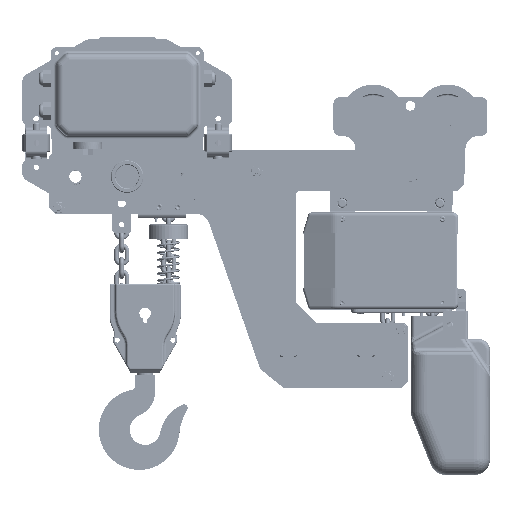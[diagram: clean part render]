
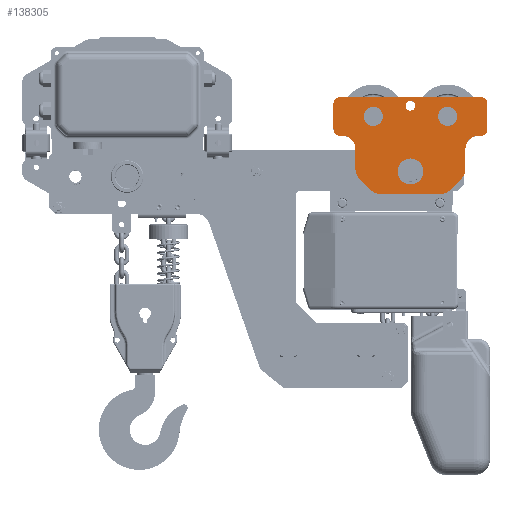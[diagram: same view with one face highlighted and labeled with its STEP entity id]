
A CAD part, top view. The second image highlights one B-rep face of the part: STEP entity #138305.
In plain terms, the highlighted planar face has unit normal (0, 0, 1).
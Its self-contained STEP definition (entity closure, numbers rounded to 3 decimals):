
#11810=CIRCLE('',#165375,14.75);
#11812=CIRCLE('',#165379,14.75);
#11813=CIRCLE('',#165380,10.);
#11814=CIRCLE('',#165381,10.);
#11815=CIRCLE('',#165382,20.);
#11816=CIRCLE('',#165383,20.);
#11817=CIRCLE('',#165384,20.);
#11818=CIRCLE('',#165385,20.);
#11819=CIRCLE('',#165386,20.);
#11820=CIRCLE('',#165387,20.);
#11821=CIRCLE('',#165388,10.);
#11822=CIRCLE('',#165389,10.);
#11823=CIRCLE('',#165390,7.5);
#11824=CIRCLE('',#165391,20.);
#34713=ORIENTED_EDGE('',*,*,#67510,.T.);
#34714=ORIENTED_EDGE('',*,*,#67508,.T.);
#34715=ORIENTED_EDGE('',*,*,#67511,.F.);
#34716=ORIENTED_EDGE('',*,*,#67512,.F.);
#34717=ORIENTED_EDGE('',*,*,#67513,.F.);
#34718=ORIENTED_EDGE('',*,*,#67514,.F.);
#34719=ORIENTED_EDGE('',*,*,#67515,.F.);
#34720=ORIENTED_EDGE('',*,*,#67516,.F.);
#34721=ORIENTED_EDGE('',*,*,#67517,.F.);
#34722=ORIENTED_EDGE('',*,*,#67518,.F.);
#34723=ORIENTED_EDGE('',*,*,#67519,.F.);
#34724=ORIENTED_EDGE('',*,*,#67520,.F.);
#34725=ORIENTED_EDGE('',*,*,#67521,.F.);
#34726=ORIENTED_EDGE('',*,*,#67522,.F.);
#34727=ORIENTED_EDGE('',*,*,#67523,.F.);
#34728=ORIENTED_EDGE('',*,*,#67524,.F.);
#34729=ORIENTED_EDGE('',*,*,#67525,.F.);
#34730=ORIENTED_EDGE('',*,*,#67526,.F.);
#34731=ORIENTED_EDGE('',*,*,#67527,.F.);
#34732=ORIENTED_EDGE('',*,*,#67528,.F.);
#34733=ORIENTED_EDGE('',*,*,#67529,.F.);
#34734=ORIENTED_EDGE('',*,*,#67530,.F.);
#34735=ORIENTED_EDGE('',*,*,#67531,.F.);
#34736=ORIENTED_EDGE('',*,*,#67532,.F.);
#67508=EDGE_CURVE('',#85117,#85117,#11810,.F.);
#67510=EDGE_CURVE('',#85119,#85119,#11812,.F.);
#67511=EDGE_CURVE('',#85120,#85121,#11813,.F.);
#67512=EDGE_CURVE('',#85122,#85120,#96944,.F.);
#67513=EDGE_CURVE('',#85123,#85122,#11814,.F.);
#67514=EDGE_CURVE('',#85124,#85123,#96945,.F.);
#67515=EDGE_CURVE('',#85125,#85124,#11815,.F.);
#67516=EDGE_CURVE('',#85126,#85125,#96946,.F.);
#67517=EDGE_CURVE('',#85127,#85126,#11816,.F.);
#67518=EDGE_CURVE('',#85128,#85127,#96947,.F.);
#67519=EDGE_CURVE('',#85129,#85128,#11817,.F.);
#67520=EDGE_CURVE('',#85130,#85129,#96948,.F.);
#67521=EDGE_CURVE('',#85131,#85130,#11818,.F.);
#67522=EDGE_CURVE('',#85132,#85131,#96949,.F.);
#67523=EDGE_CURVE('',#85133,#85132,#11819,.F.);
#67524=EDGE_CURVE('',#85134,#85133,#96950,.F.);
#67525=EDGE_CURVE('',#85135,#85134,#11820,.F.);
#67526=EDGE_CURVE('',#85136,#85135,#96951,.F.);
#67527=EDGE_CURVE('',#85137,#85136,#11821,.F.);
#67528=EDGE_CURVE('',#85138,#85137,#96952,.F.);
#67529=EDGE_CURVE('',#85139,#85138,#11822,.F.);
#67530=EDGE_CURVE('',#85121,#85139,#96953,.F.);
#67531=EDGE_CURVE('',#85140,#85140,#11823,.F.);
#67532=EDGE_CURVE('',#85141,#85141,#11824,.F.);
#85117=VERTEX_POINT('',#252230);
#85119=VERTEX_POINT('',#252236);
#85120=VERTEX_POINT('',#252238);
#85121=VERTEX_POINT('',#252239);
#85122=VERTEX_POINT('',#252241);
#85123=VERTEX_POINT('',#252243);
#85124=VERTEX_POINT('',#252245);
#85125=VERTEX_POINT('',#252247);
#85126=VERTEX_POINT('',#252249);
#85127=VERTEX_POINT('',#252251);
#85128=VERTEX_POINT('',#252253);
#85129=VERTEX_POINT('',#252255);
#85130=VERTEX_POINT('',#252257);
#85131=VERTEX_POINT('',#252259);
#85132=VERTEX_POINT('',#252261);
#85133=VERTEX_POINT('',#252263);
#85134=VERTEX_POINT('',#252265);
#85135=VERTEX_POINT('',#252267);
#85136=VERTEX_POINT('',#252269);
#85137=VERTEX_POINT('',#252271);
#85138=VERTEX_POINT('',#252273);
#85139=VERTEX_POINT('',#252275);
#85140=VERTEX_POINT('',#252278);
#85141=VERTEX_POINT('',#252280);
#96944=LINE('',#252240,#105902);
#96945=LINE('',#252244,#105903);
#96946=LINE('',#252248,#105904);
#96947=LINE('',#252252,#105905);
#96948=LINE('',#252256,#105906);
#96949=LINE('',#252260,#105907);
#96950=LINE('',#252264,#105908);
#96951=LINE('',#252268,#105909);
#96952=LINE('',#252272,#105910);
#96953=LINE('',#252276,#105911);
#105902=VECTOR('',#188132,1000.);
#105903=VECTOR('',#188135,1000.);
#105904=VECTOR('',#188138,1000.);
#105905=VECTOR('',#188141,1000.);
#105906=VECTOR('',#188144,1000.);
#105907=VECTOR('',#188147,1000.);
#105908=VECTOR('',#188150,1000.);
#105909=VECTOR('',#188153,1000.);
#105910=VECTOR('',#188156,1000.);
#105911=VECTOR('',#188159,1000.);
#114998=EDGE_LOOP('',(#34713));
#114999=EDGE_LOOP('',(#34714));
#115000=EDGE_LOOP('',(#34715,#34716,#34717,#34718,#34719,#34720,#34721,
#34722,#34723,#34724,#34725,#34726,#34727,#34728,#34729,#34730,#34731,#34732,
#34733,#34734));
#115001=EDGE_LOOP('',(#34735));
#115002=EDGE_LOOP('',(#34736));
#125460=FACE_BOUND('',#114998,.T.);
#125461=FACE_BOUND('',#114999,.T.);
#125462=FACE_BOUND('',#115000,.T.);
#125463=FACE_BOUND('',#115001,.T.);
#125464=FACE_BOUND('',#115002,.T.);
#132930=PLANE('',#165378);
#138305=ADVANCED_FACE('',(#125460,#125461,#125462,#125463,#125464),#132930,
 .F.);
#165375=AXIS2_PLACEMENT_3D('',#252229,#188120,#188121);
#165378=AXIS2_PLACEMENT_3D('',#252234,#188126,#188127);
#165379=AXIS2_PLACEMENT_3D('',#252235,#188128,#188129);
#165380=AXIS2_PLACEMENT_3D('',#252237,#188130,#188131);
#165381=AXIS2_PLACEMENT_3D('',#252242,#188133,#188134);
#165382=AXIS2_PLACEMENT_3D('',#252246,#188136,#188137);
#165383=AXIS2_PLACEMENT_3D('',#252250,#188139,#188140);
#165384=AXIS2_PLACEMENT_3D('',#252254,#188142,#188143);
#165385=AXIS2_PLACEMENT_3D('',#252258,#188145,#188146);
#165386=AXIS2_PLACEMENT_3D('',#252262,#188148,#188149);
#165387=AXIS2_PLACEMENT_3D('',#252266,#188151,#188152);
#165388=AXIS2_PLACEMENT_3D('',#252270,#188154,#188155);
#165389=AXIS2_PLACEMENT_3D('',#252274,#188157,#188158);
#165390=AXIS2_PLACEMENT_3D('',#252277,#188160,#188161);
#165391=AXIS2_PLACEMENT_3D('',#252279,#188162,#188163);
#188120=DIRECTION('',(0.,0.,1.));
#188121=DIRECTION('',(0.,-1.,0.));
#188126=DIRECTION('',(0.,0.,-1.));
#188127=DIRECTION('',(1.,0.,0.));
#188128=DIRECTION('',(0.,0.,1.));
#188129=DIRECTION('',(0.,-1.,0.));
#188130=DIRECTION('',(0.,0.,1.));
#188131=DIRECTION('',(1.,0.,0.));
#188132=DIRECTION('',(0.,-1.,0.));
#188133=DIRECTION('',(0.,0.,1.));
#188134=DIRECTION('',(1.,0.,0.));
#188135=DIRECTION('',(1.,0.,0.));
#188136=DIRECTION('',(0.,0.,-1.));
#188137=DIRECTION('',(1.,0.,0.));
#188138=DIRECTION('',(0.,-1.,0.));
#188139=DIRECTION('',(0.,0.,1.));
#188140=DIRECTION('',(1.,0.,0.));
#188141=DIRECTION('',(0.707,-0.707,0.));
#188142=DIRECTION('',(0.,0.,1.));
#188143=DIRECTION('',(1.,0.,0.));
#188144=DIRECTION('',(1.,0.,0.));
#188145=DIRECTION('',(0.,0.,1.));
#188146=DIRECTION('',(1.,0.,0.));
#188147=DIRECTION('',(0.707,0.707,0.));
#188148=DIRECTION('',(0.,0.,1.));
#188149=DIRECTION('',(1.,0.,0.));
#188150=DIRECTION('',(0.,1.,0.));
#188151=DIRECTION('',(0.,0.,-1.));
#188152=DIRECTION('',(1.,0.,0.));
#188153=DIRECTION('',(1.,0.,0.));
#188154=DIRECTION('',(0.,0.,1.));
#188155=DIRECTION('',(1.,0.,0.));
#188156=DIRECTION('',(0.,1.,0.));
#188157=DIRECTION('',(0.,0.,1.));
#188158=DIRECTION('',(1.,0.,0.));
#188159=DIRECTION('',(-1.,0.,0.));
#188160=DIRECTION('',(0.,0.,-1.));
#188161=DIRECTION('',(1.,0.,0.));
#188162=DIRECTION('',(0.,0.,-1.));
#188163=DIRECTION('',(1.,0.,0.));
#252229=CARTESIAN_POINT('',(-57.,-442.742,345.278));
#252230=CARTESIAN_POINT('',(-57.,-457.492,345.278));
#252234=CARTESIAN_POINT('',(-108.5,-422.742,345.278));
#252235=CARTESIAN_POINT('',(58.,-442.742,345.278));
#252236=CARTESIAN_POINT('',(58.,-457.492,345.278));
#252237=CARTESIAN_POINT('',(-108.5,-422.742,345.278));
#252238=CARTESIAN_POINT('',(-118.5,-422.742,345.278));
#252239=CARTESIAN_POINT('',(-108.5,-412.742,345.278));
#252240=CARTESIAN_POINT('',(-118.5,-422.742,345.278));
#252241=CARTESIAN_POINT('',(-118.5,-462.742,345.278));
#252242=CARTESIAN_POINT('',(-108.5,-462.742,345.278));
#252243=CARTESIAN_POINT('',(-108.5,-472.742,345.278));
#252244=CARTESIAN_POINT('',(-108.5,-472.742,345.278));
#252245=CARTESIAN_POINT('',(-104.5,-472.742,345.278));
#252246=CARTESIAN_POINT('',(-104.5,-492.742,345.278));
#252247=CARTESIAN_POINT('',(-84.5,-492.742,345.278));
#252248=CARTESIAN_POINT('',(-84.5,-492.742,345.278));
#252249=CARTESIAN_POINT('',(-84.5,-524.458,345.278));
#252250=CARTESIAN_POINT('',(-64.5,-524.458,345.278));
#252251=CARTESIAN_POINT('',(-78.642,-538.6,345.278));
#252252=CARTESIAN_POINT('',(-78.642,-538.6,345.278));
#252253=CARTESIAN_POINT('',(-60.358,-556.884,345.278));
#252254=CARTESIAN_POINT('',(-46.216,-542.742,345.278));
#252255=CARTESIAN_POINT('',(-46.216,-562.742,345.278));
#252256=CARTESIAN_POINT('',(-46.216,-562.742,345.278));
#252257=CARTESIAN_POINT('',(47.216,-562.742,345.278));
#252258=CARTESIAN_POINT('',(47.216,-542.742,345.278));
#252259=CARTESIAN_POINT('',(61.358,-556.884,345.278));
#252260=CARTESIAN_POINT('',(61.358,-556.884,345.278));
#252261=CARTESIAN_POINT('',(79.642,-538.6,345.278));
#252262=CARTESIAN_POINT('',(65.5,-524.458,345.278));
#252263=CARTESIAN_POINT('',(85.5,-524.458,345.278));
#252264=CARTESIAN_POINT('',(85.5,-524.458,345.278));
#252265=CARTESIAN_POINT('',(85.5,-492.742,345.278));
#252266=CARTESIAN_POINT('',(105.5,-492.742,345.278));
#252267=CARTESIAN_POINT('',(105.5,-472.742,345.278));
#252268=CARTESIAN_POINT('',(105.5,-472.742,345.278));
#252269=CARTESIAN_POINT('',(109.5,-472.742,345.278));
#252270=CARTESIAN_POINT('',(109.5,-462.742,345.278));
#252271=CARTESIAN_POINT('',(119.5,-462.742,345.278));
#252272=CARTESIAN_POINT('',(119.5,-462.742,345.278));
#252273=CARTESIAN_POINT('',(119.5,-422.742,345.278));
#252274=CARTESIAN_POINT('',(109.5,-422.742,345.278));
#252275=CARTESIAN_POINT('',(109.5,-412.742,345.278));
#252276=CARTESIAN_POINT('',(32.7,-412.742,345.278));
#252277=CARTESIAN_POINT('',(0.5,-426.242,345.278));
#252278=CARTESIAN_POINT('',(8.,-426.242,345.278));
#252279=CARTESIAN_POINT('',(0.5,-527.742,345.278));
#252280=CARTESIAN_POINT('',(20.5,-527.742,345.278));
